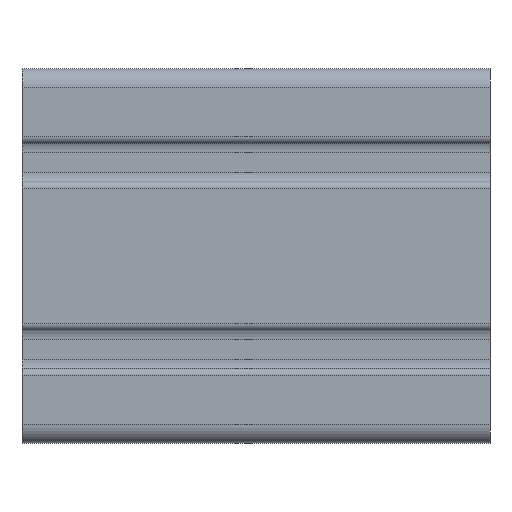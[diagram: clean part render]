
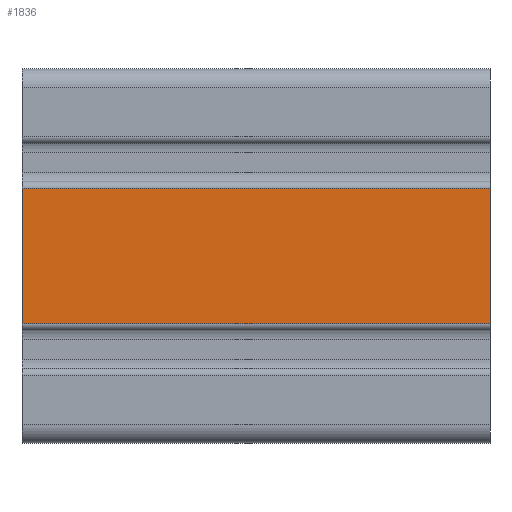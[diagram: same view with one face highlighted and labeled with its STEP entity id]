
A CAD part, left-side view. The second image highlights one B-rep face of the part: STEP entity #1836.
In plain terms, the highlighted planar face has unit normal (-1, 0, 0).
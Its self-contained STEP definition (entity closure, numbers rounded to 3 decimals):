
#400 = VECTOR ( 'NONE', #806, 1000. ) ;
#493 = DIRECTION ( 'NONE',  ( 0., 0., -1. ) ) ;
#522 = LINE ( 'NONE', #2450, #2461 ) ;
#558 = CARTESIAN_POINT ( 'NONE',  ( -40., 50., -14.5 ) ) ;
#639 = ORIENTED_EDGE ( 'NONE', *, *, #4306, .T. ) ;
#727 = DIRECTION ( 'NONE',  ( 0., 0., 1. ) ) ;
#806 = DIRECTION ( 'NONE',  ( 0., -1., 0. ) ) ;
#817 = ORIENTED_EDGE ( 'NONE', *, *, #5185, .F. ) ;
#1095 = VERTEX_POINT ( 'NONE', #3528 ) ;
#1179 = ORIENTED_EDGE ( 'NONE', *, *, #2773, .T. ) ;
#1474 = CARTESIAN_POINT ( 'NONE',  ( -40., 50., -14.5 ) ) ;
#1651 = AXIS2_PLACEMENT_3D ( 'NONE', #1474, #3373, #493 ) ;
#1789 = CARTESIAN_POINT ( 'NONE',  ( -40., 50., 14.5 ) ) ;
#1836 = ADVANCED_FACE ( 'NONE', ( #4434 ), #4340, .F. ) ;
#1863 = EDGE_CURVE ( 'NONE', #5699, #6217, #522, .T. ) ;
#1983 = LINE ( 'NONE', #558, #3991 ) ;
#2450 = CARTESIAN_POINT ( 'NONE',  ( -40., 50., -14.5 ) ) ;
#2461 = VECTOR ( 'NONE', #3405, 1000. ) ;
#2773 = EDGE_CURVE ( 'NONE', #1095, #3384, #3070, .T. ) ;
#3070 = LINE ( 'NONE', #5128, #5237 ) ;
#3341 = CARTESIAN_POINT ( 'NONE',  ( -40., 50., -14.5 ) ) ;
#3373 = DIRECTION ( 'NONE',  ( 1., 0., 0. ) ) ;
#3384 = VERTEX_POINT ( 'NONE', #3573 ) ;
#3405 = DIRECTION ( 'NONE',  ( 0., 0., 1. ) ) ;
#3528 = CARTESIAN_POINT ( 'NONE',  ( -40., -50., -14.5 ) ) ;
#3573 = CARTESIAN_POINT ( 'NONE',  ( -40., -50., 14.5 ) ) ;
#3671 = CARTESIAN_POINT ( 'NONE',  ( -40., 50., 14.5 ) ) ;
#3867 = DIRECTION ( 'NONE',  ( 0., -1., 0. ) ) ;
#3991 = VECTOR ( 'NONE', #3867, 1000. ) ;
#4306 = EDGE_CURVE ( 'NONE', #5699, #1095, #1983, .T. ) ;
#4340 = PLANE ( 'NONE',  #1651 ) ;
#4434 = FACE_OUTER_BOUND ( 'NONE', #4678, .T. ) ;
#4678 = EDGE_LOOP ( 'NONE', ( #1179, #817, #5463, #639 ) ) ;
#5128 = CARTESIAN_POINT ( 'NONE',  ( -40., -50., -14.5 ) ) ;
#5185 = EDGE_CURVE ( 'NONE', #6217, #3384, #6158, .T. ) ;
#5237 = VECTOR ( 'NONE', #727, 1000. ) ;
#5463 = ORIENTED_EDGE ( 'NONE', *, *, #1863, .F. ) ;
#5699 = VERTEX_POINT ( 'NONE', #3341 ) ;
#6158 = LINE ( 'NONE', #1789, #400 ) ;
#6217 = VERTEX_POINT ( 'NONE', #3671 ) ;
